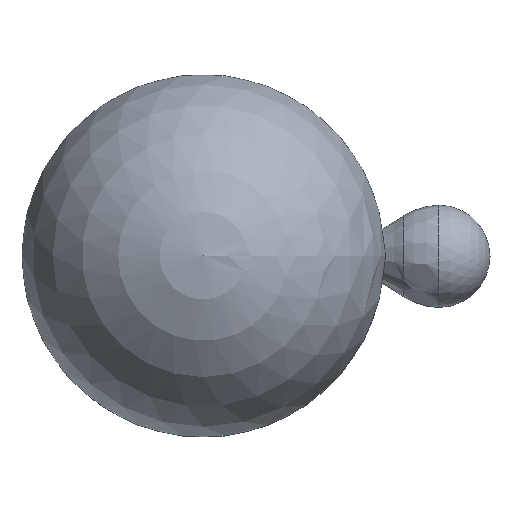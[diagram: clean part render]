
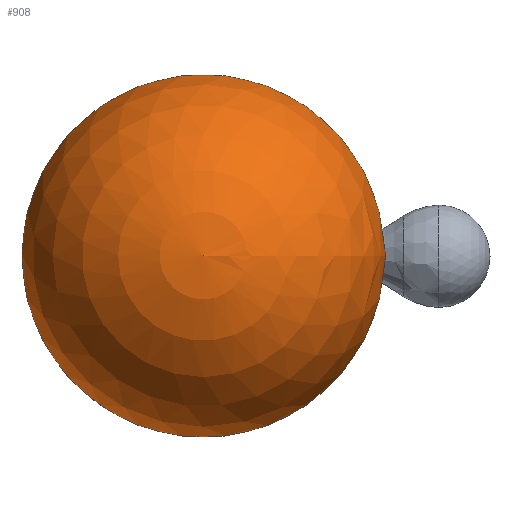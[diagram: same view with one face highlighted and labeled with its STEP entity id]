
A CAD part, top view. The second image highlights one B-rep face of the part: STEP entity #908.
In plain terms, the highlighted spherical face has radius 80 mm.
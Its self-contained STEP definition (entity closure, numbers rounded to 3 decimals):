
#908 = ADVANCED_FACE( '', ( #1804 ), #1805, .T. );
#1804 = FACE_OUTER_BOUND( '', #2432, .T. );
#1805 = SPHERICAL_SURFACE( '', #2433, 80. );
#2432 = EDGE_LOOP( '', ( #3389 ) );
#2433 = AXIS2_PLACEMENT_3D( '', #3390, #3391, #3392 );
#3389 = ORIENTED_EDGE( '', *, *, #4164, .T. );
#3390 = CARTESIAN_POINT( '', ( 0., 0., 75. ) );
#3391 = DIRECTION( '', ( 0., 0., -1. ) );
#3392 = DIRECTION( '', ( 1., 0., 0. ) );
#4164 = EDGE_CURVE( '', #4808, #4808, #4809, .T. );
#4808 = VERTEX_POINT( '', #5477 );
#4809 = CIRCLE( '', #5478, 36.098 );
#5477 = CARTESIAN_POINT( '', ( 36.098, 0., 3.607 ) );
#5478 = AXIS2_PLACEMENT_3D( '', #5921, #5922, #5923 );
#5921 = CARTESIAN_POINT( '', ( 0., 0., 3.607 ) );
#5922 = DIRECTION( '', ( 0., 0., 1. ) );
#5923 = DIRECTION( '', ( 1., 0., 0. ) );
